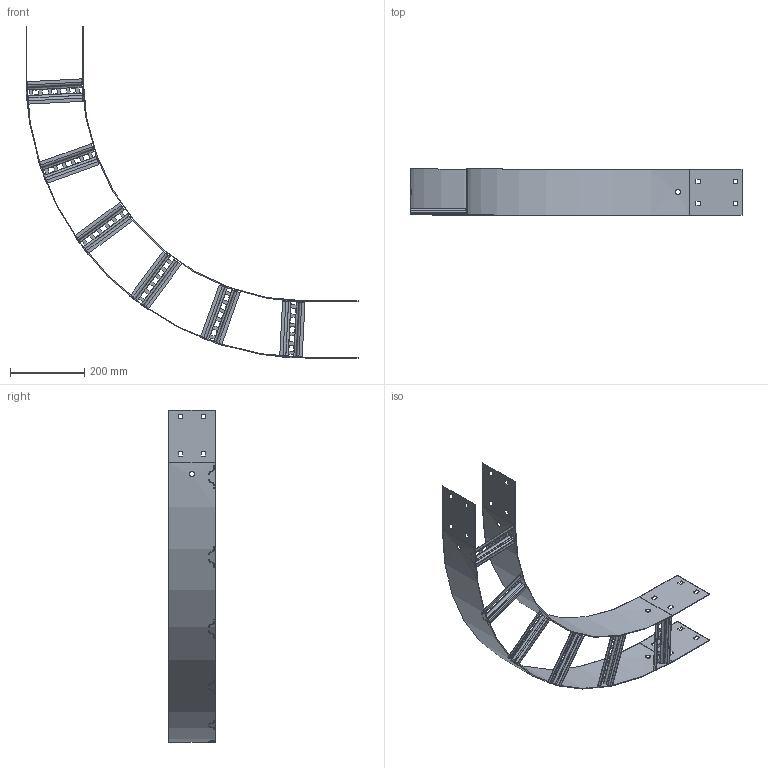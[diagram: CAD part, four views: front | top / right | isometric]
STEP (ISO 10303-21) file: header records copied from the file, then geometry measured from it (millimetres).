
FILE_DESCRIPTION (( 'STEP AP203' ), '1' );
FILE_NAME ('N3 B 1506.STEP', '2021-06-10T21:07:24', ( '' ), ( '' ), 'SwSTEP 2.0', 'SolidWorks 2020', '' );
FILE_SCHEMA (( 'CONFIG_CONTROL_DESIGN' ));
Length unit declared in the file: millimetre
Products named in the file (4): N3 RADIUS PLATE_N1-600 IR; Ladder Rung_Ladder Rung -  150mm; N3 B 1506; N3 RADIUS PLATE_N1-750
Assembly tree (8 placements, depth 2):
  N3 B 1506
    N3 RADIUS PLATE_N1-600 IR
    N3 RADIUS PLATE_N1-750
    Ladder Rung_Ladder Rung -  150mm  x6
Bounding box: 894.5 x 124 x 894.5 mm (x, y, z)
Volume: 757473.6 mm3; surface area: 802532.7 mm2
Topology: 8 solids, 8 shells, 496 faces, 1232 edges, 752 vertices
Faces by surface type: plane 436, cylinder 60
Entity records: 6266 total; most frequent: CARTESIAN_POINT 1569, ORIENTED_EDGE 864, DIRECTION 794, EDGE_CURVE 432, LINE 392, VECTOR 392, VERTEX_POINT 272, EDGE_LOOP 216
